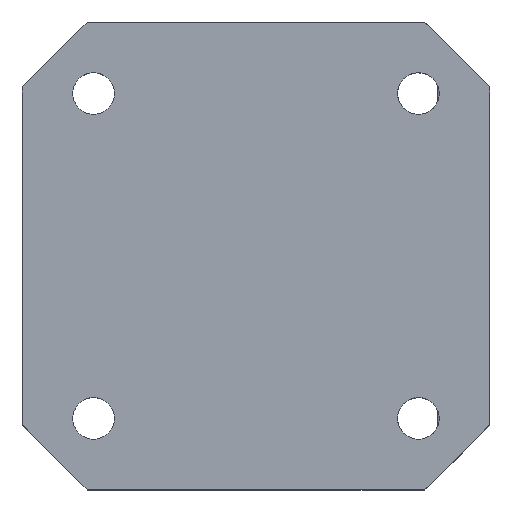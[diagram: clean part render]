
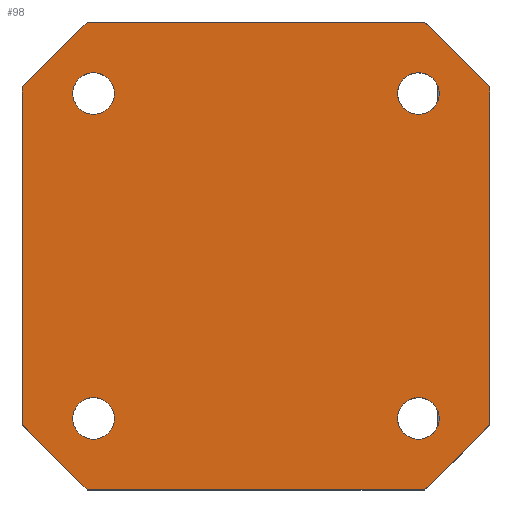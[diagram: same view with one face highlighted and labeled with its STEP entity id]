
A CAD part, top view. The second image highlights one B-rep face of the part: STEP entity #98.
In plain terms, the highlighted planar face has unit normal (0, 0, 1).
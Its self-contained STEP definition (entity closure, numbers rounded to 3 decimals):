
#98=ADVANCED_FACE('',(#275,#276,#277,#278,#279),#135,.T.);
#135=PLANE('',#814);
#158=LINE('',#1131,#217);
#177=LINE('',#1177,#236);
#180=LINE('',#1183,#239);
#183=LINE('',#1189,#242);
#186=LINE('',#1195,#245);
#189=LINE('',#1203,#248);
#192=LINE('',#1208,#251);
#193=LINE('',#1210,#252);
#217=VECTOR('',#903,1.);
#236=VECTOR('',#938,1.);
#239=VECTOR('',#943,1.);
#242=VECTOR('',#948,1.);
#245=VECTOR('',#953,1.);
#248=VECTOR('',#962,1.);
#251=VECTOR('',#967,1.);
#252=VECTOR('',#970,1.);
#275=FACE_BOUND('',#320,.T.);
#276=FACE_BOUND('',#321,.T.);
#277=FACE_BOUND('',#322,.T.);
#278=FACE_BOUND('',#323,.T.);
#279=FACE_BOUND('',#324,.T.);
#320=EDGE_LOOP('',(#442));
#321=EDGE_LOOP('',(#443));
#322=EDGE_LOOP('',(#444));
#323=EDGE_LOOP('',(#445));
#324=EDGE_LOOP('',(#446,#447,#448,#449,#450,#451,#452,#453));
#442=ORIENTED_EDGE('',*,*,#675,.T.);
#443=ORIENTED_EDGE('',*,*,#676,.T.);
#444=ORIENTED_EDGE('',*,*,#677,.T.);
#445=ORIENTED_EDGE('',*,*,#678,.T.);
#446=ORIENTED_EDGE('',*,*,#656,.T.);
#447=ORIENTED_EDGE('',*,*,#659,.T.);
#448=ORIENTED_EDGE('',*,*,#662,.T.);
#449=ORIENTED_EDGE('',*,*,#665,.T.);
#450=ORIENTED_EDGE('',*,*,#633,.T.);
#451=ORIENTED_EDGE('',*,*,#670,.T.);
#452=ORIENTED_EDGE('',*,*,#673,.T.);
#453=ORIENTED_EDGE('',*,*,#674,.T.);
#569=VERTEX_POINT('',#1130);
#570=VERTEX_POINT('',#1132);
#588=VERTEX_POINT('',#1176);
#589=VERTEX_POINT('',#1178);
#590=VERTEX_POINT('',#1182);
#592=VERTEX_POINT('',#1188);
#596=VERTEX_POINT('',#1202);
#597=VERTEX_POINT('',#1207);
#598=VERTEX_POINT('',#1213);
#599=VERTEX_POINT('',#1215);
#600=VERTEX_POINT('',#1217);
#601=VERTEX_POINT('',#1219);
#633=EDGE_CURVE('',#570,#569,#158,.T.);
#656=EDGE_CURVE('',#589,#588,#177,.T.);
#659=EDGE_CURVE('',#588,#590,#180,.T.);
#662=EDGE_CURVE('',#590,#592,#183,.T.);
#665=EDGE_CURVE('',#592,#570,#186,.T.);
#670=EDGE_CURVE('',#569,#596,#189,.T.);
#673=EDGE_CURVE('',#596,#597,#192,.T.);
#674=EDGE_CURVE('',#597,#589,#193,.T.);
#675=EDGE_CURVE('',#598,#598,#761,.T.);
#676=EDGE_CURVE('',#599,#599,#762,.T.);
#677=EDGE_CURVE('',#600,#600,#763,.T.);
#678=EDGE_CURVE('',#601,#601,#764,.T.);
#761=CIRCLE('',#810,0.8);
#762=CIRCLE('',#811,0.8);
#763=CIRCLE('',#812,0.8);
#764=CIRCLE('',#813,0.8);
#810=AXIS2_PLACEMENT_3D('',#1212,#973,#974);
#811=AXIS2_PLACEMENT_3D('',#1214,#975,#976);
#812=AXIS2_PLACEMENT_3D('',#1216,#977,#978);
#813=AXIS2_PLACEMENT_3D('',#1218,#979,#980);
#814=AXIS2_PLACEMENT_3D('',#1220,#981,#982);
#903=DIRECTION('',(0.,1.,0.));
#938=DIRECTION('',(0.,-1.,0.));
#943=DIRECTION('',(0.707,-0.707,0.));
#948=DIRECTION('',(1.,0.,0.));
#953=DIRECTION('',(0.707,0.707,0.));
#962=DIRECTION('',(-0.707,0.707,0.));
#967=DIRECTION('',(-1.,0.,0.));
#970=DIRECTION('',(-0.707,-0.707,0.));
#973=DIRECTION('',(0.,0.,-1.));
#974=DIRECTION('',(-1.,0.,0.));
#975=DIRECTION('',(0.,0.,-1.));
#976=DIRECTION('',(-1.,0.,0.));
#977=DIRECTION('',(0.,0.,-1.));
#978=DIRECTION('',(-1.,0.,0.));
#979=DIRECTION('',(0.,0.,-1.));
#980=DIRECTION('',(-1.,0.,0.));
#981=DIRECTION('',(0.,0.,1.));
#982=DIRECTION('',(1.,0.,0.));
#1130=CARTESIAN_POINT('',(9.,6.5,2.));
#1131=CARTESIAN_POINT('',(9.,-6.5,2.));
#1132=CARTESIAN_POINT('',(9.,-6.5,2.));
#1176=CARTESIAN_POINT('',(-9.,-6.5,2.));
#1177=CARTESIAN_POINT('',(-9.,6.5,2.));
#1178=CARTESIAN_POINT('',(-9.,6.5,2.));
#1182=CARTESIAN_POINT('',(-6.5,-9.,2.));
#1183=CARTESIAN_POINT('',(-9.,-6.5,2.));
#1188=CARTESIAN_POINT('',(6.5,-9.,2.));
#1189=CARTESIAN_POINT('',(-6.5,-9.,2.));
#1195=CARTESIAN_POINT('',(6.5,-9.,2.));
#1202=CARTESIAN_POINT('',(6.5,9.,2.));
#1203=CARTESIAN_POINT('',(9.,6.5,2.));
#1207=CARTESIAN_POINT('',(-6.5,9.,2.));
#1208=CARTESIAN_POINT('',(6.5,9.,2.));
#1210=CARTESIAN_POINT('',(-6.5,9.,2.));
#1212=CARTESIAN_POINT('',(6.25,6.25,2.));
#1213=CARTESIAN_POINT('',(5.45,6.25,2.));
#1214=CARTESIAN_POINT('',(6.25,-6.25,2.));
#1215=CARTESIAN_POINT('',(5.45,-6.25,2.));
#1216=CARTESIAN_POINT('',(-6.25,6.25,2.));
#1217=CARTESIAN_POINT('',(-7.05,6.25,2.));
#1218=CARTESIAN_POINT('',(-6.25,-6.25,2.));
#1219=CARTESIAN_POINT('',(-7.05,-6.25,2.));
#1220=CARTESIAN_POINT('',(0.,0.,2.));
